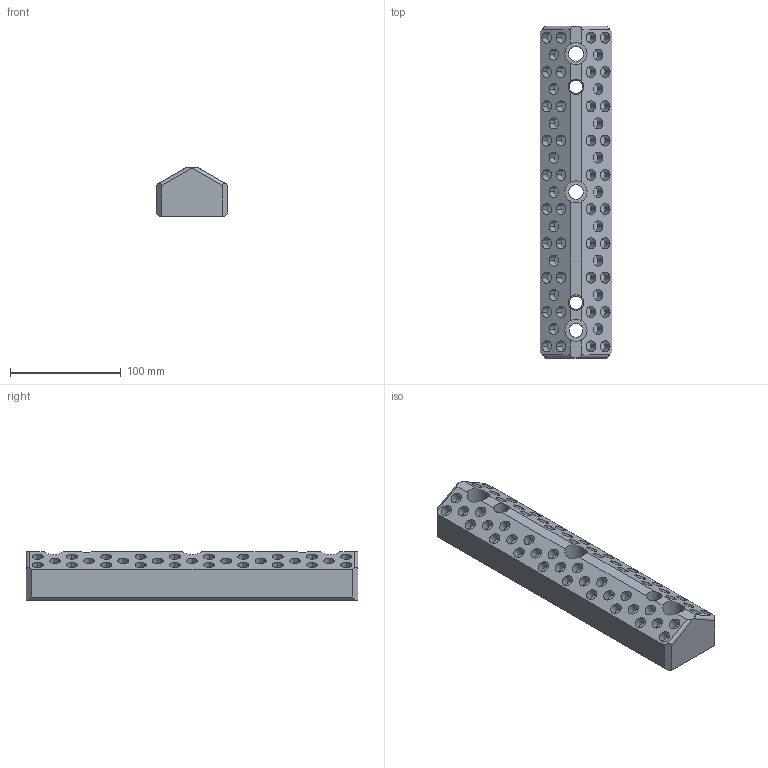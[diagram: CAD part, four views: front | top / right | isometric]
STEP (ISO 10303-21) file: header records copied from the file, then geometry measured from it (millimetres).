
FILE_DESCRIPTION (( 'STEP AP214' ), '1' );
FILE_NAME ('SW232-03-65x300.STEP', '2020-10-21T09:11:50', ( 'August' ), ( '' ), 'SwSTEP 2.0', 'SolidWorks 2018', '' );
FILE_SCHEMA (( 'AUTOMOTIVE_DESIGN' ));
Length unit declared in the file: millimetre
Products named in the file (1): SW232-03-65x300
Bounding box: 65 x 300 x 44 mm (x, y, z)
Volume: 640445.5 mm3; surface area: 87646.5 mm2
Topology: 1 solids, 1 shells, 224 faces, 490 edges, 326 vertices
Faces by surface type: cylinder 140, plane 82, sphere 2
Entity records: 7390 total; most frequent: CARTESIAN_POINT 1625, DIRECTION 1178, ORIENTED_EDGE 980, AXIS2_PLACEMENT_3D 497, EDGE_CURVE 490, VERTEX_POINT 326, EDGE_LOOP 292, CIRCLE 272
